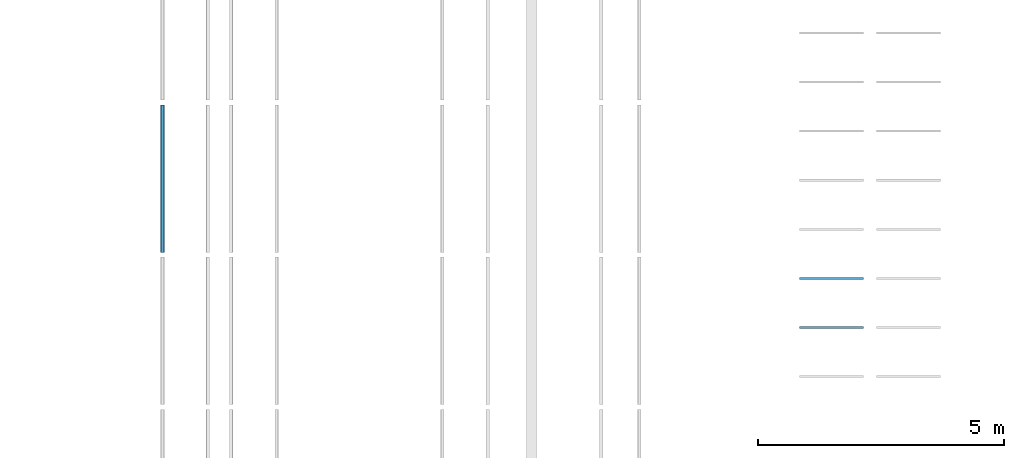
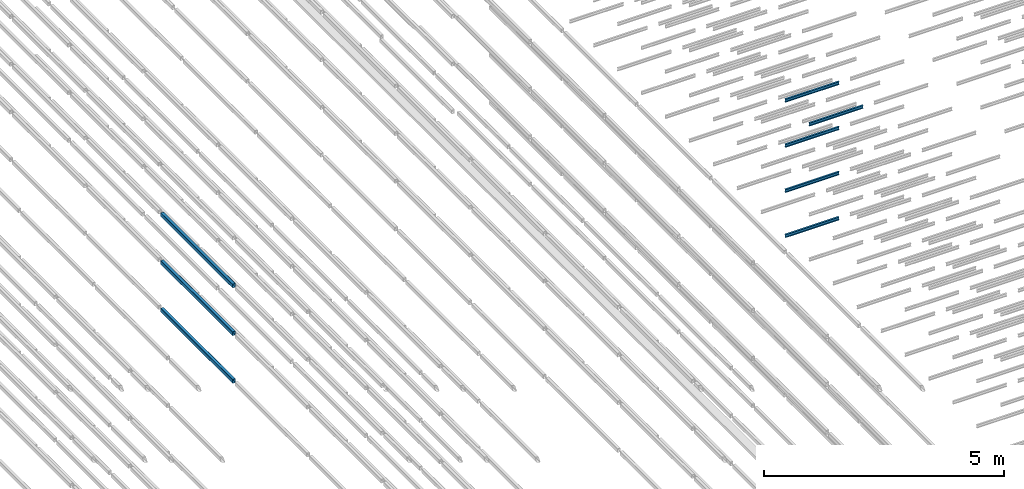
# One storey, part 83 of 290: 8 beams.
"""IFC2X3 building model written with IfcOpenShell, lengths in metres."""

from ifc_helpers import new_model, entity, si_unit, converted_unit, derived_unit, direction, frame, frame_2d, origin, place, context, subcontext, project, spatial, polyline, circle_curve, parameter, trimmed, segment, composite_curve, outline, extrude, material, type_object, element, save


model = new_model("IFC2X3")

# Units and contexts
model_context = context("Model", 3, precision=1e-05, world=origin(), true_north=direction((6.12303176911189e-17, 1.0)))
body_context = subcontext(model_context, "Body", "Model", "MODEL_VIEW")
ifc_project = project(units=[si_unit("LENGTHUNIT", "METRE"), si_unit("AREAUNIT", "SQUARE_METRE"), si_unit("VOLUMEUNIT", "CUBIC_METRE"), converted_unit("PLANEANGLEUNIT", "DEGREE", entity("IfcRatioMeasure", 0.0174532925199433), si_unit("PLANEANGLEUNIT", "RADIAN"), dimensions=[0, 0, 0, 0, 0, 0, 0]), si_unit("MASSUNIT", "GRAM", prefix="KILO"), derived_unit("MASSDENSITYUNIT", [(si_unit("MASSUNIT", "GRAM", prefix="KILO"), 1), (si_unit("LENGTHUNIT", "METRE"), -3)]), derived_unit("MOMENTOFINERTIAUNIT", [(si_unit("LENGTHUNIT", "METRE"), 4)]), si_unit("TIMEUNIT", "SECOND"), si_unit("FREQUENCYUNIT", "HERTZ"), si_unit("THERMODYNAMICTEMPERATUREUNIT", "DEGREE_CELSIUS"), derived_unit("THERMALTRANSMITTANCEUNIT", [(si_unit("MASSUNIT", "GRAM", prefix="KILO"), 1), (si_unit("THERMODYNAMICTEMPERATUREUNIT", "KELVIN"), -1), (si_unit("TIMEUNIT", "SECOND"), -3)]), derived_unit("VOLUMETRICFLOWRATEUNIT", [(si_unit("LENGTHUNIT", "METRE"), 3), (si_unit("TIMEUNIT", "SECOND"), -1)]), si_unit("ELECTRICCURRENTUNIT", "AMPERE"), si_unit("ELECTRICVOLTAGEUNIT", "VOLT"), si_unit("POWERUNIT", "WATT"), si_unit("FORCEUNIT", "NEWTON", prefix="KILO"), si_unit("ILLUMINANCEUNIT", "LUX"), si_unit("LUMINOUSFLUXUNIT", "LUMEN"), si_unit("LUMINOUSINTENSITYUNIT", "CANDELA"), derived_unit("USERDEFINED", [(si_unit("MASSUNIT", "GRAM", prefix="KILO"), -1), (si_unit("LENGTHUNIT", "METRE"), -2), (si_unit("TIMEUNIT", "SECOND"), 3), (si_unit("LUMINOUSFLUXUNIT", "LUMEN"), 1)]), derived_unit("LINEARVELOCITYUNIT", [(si_unit("LENGTHUNIT", "METRE"), 1), (si_unit("TIMEUNIT", "SECOND"), -1)]), si_unit("PRESSUREUNIT", "PASCAL"), derived_unit("USERDEFINED", [(si_unit("LENGTHUNIT", "METRE"), -2), (si_unit("MASSUNIT", "GRAM", prefix="KILO"), 1), (si_unit("TIMEUNIT", "SECOND"), -2)]), derived_unit("LINEARFORCEUNIT", [(si_unit("MASSUNIT", "GRAM", prefix="KILO"), 1), (si_unit("LENGTHUNIT", "METRE"), 1), (si_unit("TIMEUNIT", "SECOND"), -2), (si_unit("LENGTHUNIT", "METRE"), -1)]), derived_unit("PLANARFORCEUNIT", [(si_unit("MASSUNIT", "GRAM", prefix="KILO"), 1), (si_unit("LENGTHUNIT", "METRE"), 1), (si_unit("TIMEUNIT", "SECOND"), -2), (si_unit("LENGTHUNIT", "METRE"), -2)])], contexts=[model_context])

# Site, building, storey
site_placement = place(None, origin())
site = spatial("IfcSite", under=ifc_project, at=site_placement, Name="Default", CompositionType="ELEMENT")
building_placement = place(site_placement, origin())
building = spatial("IfcBuilding", under=site, at=building_placement, CompositionType="ELEMENT")
storey_placement = place(building_placement, frame((0.0, 0.0, 4.0)))
storey = spatial("IfcBuildingStorey", under=building, at=storey_placement, Name="01_OG", CompositionType="ELEMENT", Elevation=4.0)

# Beams
ifc_material_1 = material(Name="Metall - Baustahl S235 blau")
beam_type_1 = type_object("IfcBeamType", Name="RHS Träger (EN 10219-2):RHS 100 x 75 x 5", PredefinedType="NOTDEFINED")
beam_1_placement = place(storey_placement, frame((-185.015111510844, 39.548088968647, -1.2), z_axis=(0.0, 0.0, 1.0), x_axis=(0.0, 1.0, 0.0)))
element("IfcBeam", 1, at=beam_1_placement, inside=storey, type_object=beam_type_1, material=ifc_material_1, Name="RHS Träger (EN 10219-2):RHS 100 x 75 x 5", ObjectType="RHS Träger (EN 10219-2):RHS 100 x 75 x 5", context=body_context, shape_type="SweptSolid", body=[
    extrude(outline(composite_curve([segment(trimmed(circle_curve(frame_2d((-0.0274999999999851, -0.0400000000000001), x_axis=(1.0, 0.0)), 0.01), [parameter(180.0)], [parameter(270.0)], True, "PARAMETER"), True, "CONTINUOUS"), segment(polyline([(-0.0274999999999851, -0.05), (0.0274999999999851, -0.05)]), True, "CONTINUOUS"), segment(trimmed(circle_curve(frame_2d((0.0274999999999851, -0.0400000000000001), x_axis=(1.0, 0.0)), 0.01), [parameter(270.0)], [parameter(5.08888749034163e-14)], True, "PARAMETER"), True, "CONTINUOUS"), segment(polyline([(0.0375000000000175, -0.0400000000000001), (0.0375000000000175, 0.0400000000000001)]), True, "CONTINUOUS"), segment(trimmed(circle_curve(frame_2d((0.0274999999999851, 0.0400000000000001), x_axis=(1.0, 0.0)), 0.01), [parameter(360.0)], [parameter(89.9999999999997)], True, "PARAMETER"), True, "CONTINUOUS"), segment(polyline([(0.0274999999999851, 0.05), (-0.0274999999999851, 0.05)]), True, "CONTINUOUS"), segment(trimmed(circle_curve(frame_2d((-0.0274999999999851, 0.0400000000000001), x_axis=(1.0, 0.0)), 0.01), [parameter(90.0000000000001)], [parameter(180.0)], True, "PARAMETER"), True, "CONTINUOUS"), segment(polyline([(-0.0374999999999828, 0.0400000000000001), (-0.0374999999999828, -0.0400000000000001)]), True, "CONTINUOUS")], self_intersect=False), holes=[composite_curve([segment(polyline([(0.0274999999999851, -0.0450000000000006), (-0.0274999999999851, -0.0450000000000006)]), True, "CONTINUOUS"), segment(trimmed(circle_curve(frame_2d((-0.0274999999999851, -0.0400000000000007), x_axis=(1.0, 0.0)), 0.005), [parameter(180.0)], [parameter(270.0)], True, "PARAMETER"), False, "CONTINUOUS"), segment(polyline([(-0.0325000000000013, -0.0400000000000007), (-0.0325000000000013, 0.039999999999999)]), True, "CONTINUOUS"), segment(trimmed(circle_curve(frame_2d((-0.0274999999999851, 0.039999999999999), x_axis=(1.0, 0.0)), 0.005), [parameter(90.0000000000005)], [parameter(180.0)], True, "PARAMETER"), False, "CONTINUOUS"), segment(polyline([(-0.0274999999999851, 0.044999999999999), (0.0274999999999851, 0.044999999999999)]), True, "CONTINUOUS"), segment(trimmed(circle_curve(frame_2d((0.0274999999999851, 0.039999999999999), x_axis=(1.0, 0.0)), 0.005), [parameter(0.0)], [parameter(90.0000000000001)], True, "PARAMETER"), False, "CONTINUOUS"), segment(polyline([(0.0325000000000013, 0.039999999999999), (0.0325000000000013, -0.0400000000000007)]), True, "CONTINUOUS"), segment(trimmed(circle_curve(frame_2d((0.0274999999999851, -0.0400000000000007), x_axis=(1.0, 0.0)), 0.005), [parameter(270.0)], [parameter(4.07110999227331e-13)], True, "PARAMETER"), False, "CONTINUOUS")], self_intersect=False)]), frame((0.000100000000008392, 0.0375000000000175, -0.0500000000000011), z_axis=(1.0, 0.0, 0.0), x_axis=(0.0, -1.0, 0.0)), (0.0, 0.0, 1.0), 2.99979999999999),
])
beam_2_placement = place(storey_placement, frame((-185.015111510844, 39.548088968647, 0.0150000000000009), z_axis=(0.0, 0.0, 1.0), x_axis=(0.0, 1.0, 0.0)))
element("IfcBeam", 2, at=beam_2_placement, inside=storey, type_object=beam_type_1, material=ifc_material_1, Name="RHS Träger (EN 10219-2):RHS 100 x 75 x 5", ObjectType="RHS Träger (EN 10219-2):RHS 100 x 75 x 5", context=body_context, shape_type="SweptSolid", body=[
    extrude(outline(composite_curve([segment(trimmed(circle_curve(frame_2d((-0.0274999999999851, -0.0400000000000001), x_axis=(1.0, 0.0)), 0.01), [parameter(180.0)], [parameter(270.0)], True, "PARAMETER"), True, "CONTINUOUS"), segment(polyline([(-0.0274999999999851, -0.05), (0.0274999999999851, -0.05)]), True, "CONTINUOUS"), segment(trimmed(circle_curve(frame_2d((0.0274999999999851, -0.0400000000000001), x_axis=(1.0, 0.0)), 0.01), [parameter(270.0)], [parameter(5.08888749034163e-14)], True, "PARAMETER"), True, "CONTINUOUS"), segment(polyline([(0.0375000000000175, -0.0400000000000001), (0.0375000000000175, 0.0400000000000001)]), True, "CONTINUOUS"), segment(trimmed(circle_curve(frame_2d((0.0274999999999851, 0.0400000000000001), x_axis=(1.0, 0.0)), 0.01), [parameter(360.0)], [parameter(89.9999999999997)], True, "PARAMETER"), True, "CONTINUOUS"), segment(polyline([(0.0274999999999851, 0.05), (-0.0274999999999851, 0.05)]), True, "CONTINUOUS"), segment(trimmed(circle_curve(frame_2d((-0.0274999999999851, 0.0400000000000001), x_axis=(1.0, 0.0)), 0.01), [parameter(90.0000000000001)], [parameter(180.0)], True, "PARAMETER"), True, "CONTINUOUS"), segment(polyline([(-0.0374999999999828, 0.0400000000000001), (-0.0374999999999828, -0.0400000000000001)]), True, "CONTINUOUS")], self_intersect=False), holes=[composite_curve([segment(polyline([(0.0274999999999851, -0.0450000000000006), (-0.0274999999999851, -0.0450000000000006)]), True, "CONTINUOUS"), segment(trimmed(circle_curve(frame_2d((-0.0274999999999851, -0.0400000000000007), x_axis=(1.0, 0.0)), 0.005), [parameter(180.0)], [parameter(270.0)], True, "PARAMETER"), False, "CONTINUOUS"), segment(polyline([(-0.0325000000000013, -0.0400000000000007), (-0.0325000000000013, 0.039999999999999)]), True, "CONTINUOUS"), segment(trimmed(circle_curve(frame_2d((-0.0274999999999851, 0.039999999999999), x_axis=(1.0, 0.0)), 0.005), [parameter(90.0000000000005)], [parameter(180.0)], True, "PARAMETER"), False, "CONTINUOUS"), segment(polyline([(-0.0274999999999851, 0.044999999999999), (0.0274999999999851, 0.044999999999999)]), True, "CONTINUOUS"), segment(trimmed(circle_curve(frame_2d((0.0274999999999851, 0.039999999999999), x_axis=(1.0, 0.0)), 0.005), [parameter(0.0)], [parameter(90.0000000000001)], True, "PARAMETER"), False, "CONTINUOUS"), segment(polyline([(0.0325000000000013, 0.039999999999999), (0.0325000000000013, -0.0400000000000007)]), True, "CONTINUOUS"), segment(trimmed(circle_curve(frame_2d((0.0274999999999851, -0.0400000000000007), x_axis=(1.0, 0.0)), 0.005), [parameter(270.0)], [parameter(4.07110999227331e-13)], True, "PARAMETER"), False, "CONTINUOUS")], self_intersect=False)]), frame((0.000100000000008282, 0.0375000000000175, -0.0500000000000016), z_axis=(1.0, 0.0, 0.0), x_axis=(0.0, -1.0, 0.0)), (0.0, 0.0, 1.0), 2.99979999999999),
])
beam_3_placement = place(storey_placement, frame((-185.015111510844, 39.548088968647, 1.23), z_axis=(0.0, 0.0, 1.0), x_axis=(0.0, 1.0, 0.0)))
element("IfcBeam", 3, at=beam_3_placement, inside=storey, type_object=beam_type_1, material=ifc_material_1, Name="RHS Träger (EN 10219-2):RHS 100 x 75 x 5", ObjectType="RHS Träger (EN 10219-2):RHS 100 x 75 x 5", context=body_context, shape_type="SweptSolid", body=[
    extrude(outline(composite_curve([segment(trimmed(circle_curve(frame_2d((-0.0274999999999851, -0.0399999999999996), x_axis=(1.0, 0.0)), 0.01), [parameter(180.0)], [parameter(270.0)], True, "PARAMETER"), True, "CONTINUOUS"), segment(polyline([(-0.0274999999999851, -0.0499999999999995), (0.0274999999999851, -0.0499999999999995)]), True, "CONTINUOUS"), segment(trimmed(circle_curve(frame_2d((0.0274999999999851, -0.0399999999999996), x_axis=(1.0, 0.0)), 0.01), [parameter(270.0)], [parameter(5.08888749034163e-14)], True, "PARAMETER"), True, "CONTINUOUS"), segment(polyline([(0.0375000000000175, -0.0399999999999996), (0.0375000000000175, 0.0399999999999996)]), True, "CONTINUOUS"), segment(trimmed(circle_curve(frame_2d((0.0274999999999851, 0.0399999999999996), x_axis=(1.0, 0.0)), 0.01), [parameter(360.0)], [parameter(89.9999999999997)], True, "PARAMETER"), True, "CONTINUOUS"), segment(polyline([(0.0274999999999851, 0.0500000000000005), (-0.0274999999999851, 0.0500000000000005)]), True, "CONTINUOUS"), segment(trimmed(circle_curve(frame_2d((-0.0274999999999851, 0.0399999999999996), x_axis=(1.0, 0.0)), 0.01), [parameter(90.0000000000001)], [parameter(180.0)], True, "PARAMETER"), True, "CONTINUOUS"), segment(polyline([(-0.0374999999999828, 0.0399999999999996), (-0.0374999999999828, -0.0399999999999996)]), True, "CONTINUOUS")], self_intersect=False), holes=[composite_curve([segment(polyline([(0.0274999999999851, -0.0450000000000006), (-0.0274999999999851, -0.0450000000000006)]), True, "CONTINUOUS"), segment(trimmed(circle_curve(frame_2d((-0.0274999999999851, -0.0400000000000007), x_axis=(1.0, 0.0)), 0.005), [parameter(180.0)], [parameter(270.0)], True, "PARAMETER"), False, "CONTINUOUS"), segment(polyline([(-0.0325000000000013, -0.0400000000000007), (-0.0325000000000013, 0.0399999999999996)]), True, "CONTINUOUS"), segment(trimmed(circle_curve(frame_2d((-0.0274999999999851, 0.0399999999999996), x_axis=(1.0, 0.0)), 0.005), [parameter(90.0000000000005)], [parameter(180.0)], True, "PARAMETER"), False, "CONTINUOUS"), segment(polyline([(-0.0274999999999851, 0.0449999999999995), (0.0274999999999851, 0.0449999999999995)]), True, "CONTINUOUS"), segment(trimmed(circle_curve(frame_2d((0.0274999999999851, 0.0399999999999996), x_axis=(1.0, 0.0)), 0.005), [parameter(0.0)], [parameter(90.0000000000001)], True, "PARAMETER"), False, "CONTINUOUS"), segment(polyline([(0.0325000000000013, 0.0399999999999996), (0.0325000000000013, -0.0400000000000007)]), True, "CONTINUOUS"), segment(trimmed(circle_curve(frame_2d((0.0274999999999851, -0.0400000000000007), x_axis=(1.0, 0.0)), 0.005), [parameter(270.0)], [parameter(4.07110999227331e-13)], True, "PARAMETER"), False, "CONTINUOUS")], self_intersect=False)]), frame((0.000100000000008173, 0.0375000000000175, -0.0500000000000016), z_axis=(1.0, 0.0, 0.0), x_axis=(0.0, -1.0, 0.0)), (0.0, 0.0, 1.0), 2.99979999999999),
])
ifc_material_2 = material(Name="Metall - Baustahl S235")
beam_type_2 = type_object("IfcBeamType", Name="IPN Träger:IPN 80", PredefinedType="NOTDEFINED")
beam_4_placement = place(storey_placement, frame((-170.780111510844, 39.036588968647, -1.73), z_axis=(0.0, 0.0, 1.0), x_axis=(-1.0, 0.0, 0.0)))
element("IfcBeam", 4, at=beam_4_placement, inside=storey, type_object=beam_type_2, material=ifc_material_2, Name="IPN Träger:IPN 80", ObjectType="IPN Träger:IPN 80", context=body_context, shape_type="SweptSolid", body=[
    extrude(outline(composite_curve([segment(polyline([(0.0375704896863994, -0.0210000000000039), (0.0399999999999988, -0.0210000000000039)]), True, "CONTINUOUS"), segment(polyline([(0.0399999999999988, -0.0210000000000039), (0.0399999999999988, 0.0209999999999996)]), True, "CONTINUOUS"), segment(polyline([(0.0399999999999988, 0.0209999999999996), (0.0375704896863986, 0.0209999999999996)]), True, "CONTINUOUS"), segment(trimmed(circle_curve(frame_2d((0.0375704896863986, 0.0187000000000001), x_axis=(0.0, 1.0)), 0.00230000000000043), [parameter(0.0)], [parameter(82.0299999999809)], True, "PARAMETER"), True, "CONTINUOUS"), segment(polyline([(0.0352927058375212, 0.0190189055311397), (0.0333732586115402, 0.0053092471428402)]), True, "CONTINUOUS"), segment(trimmed(circle_curve(frame_2d((0.0295109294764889, 0.00584999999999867), x_axis=(0.990340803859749, -0.138654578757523)), 0.00389999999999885), [parameter(277.969999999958)], [parameter(0.0)], True, "PARAMETER"), False, "CONTINUOUS"), segment(polyline([(0.0295109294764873, 0.00194999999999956), (-0.0295109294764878, 0.00194999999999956)]), True, "CONTINUOUS"), segment(trimmed(circle_curve(frame_2d((-0.0295109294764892, 0.00584999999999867), x_axis=(0.0, -1.0)), 0.00389999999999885), [parameter(277.969999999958)], [parameter(0.0)], True, "PARAMETER"), False, "CONTINUOUS"), segment(polyline([(-0.033373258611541, 0.00530924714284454), (-0.0352927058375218, 0.019018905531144)]), True, "CONTINUOUS"), segment(trimmed(circle_curve(frame_2d((-0.0375704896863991, 0.0187000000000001), x_axis=(0.990340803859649, 0.138654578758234)), 0.00230000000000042), [parameter(0.0)], [parameter(82.0299999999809)], True, "PARAMETER"), True, "CONTINUOUS"), segment(polyline([(-0.0375704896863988, 0.0209999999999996), (-0.0400000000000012, 0.0209999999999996)]), True, "CONTINUOUS"), segment(polyline([(-0.0400000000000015, 0.0209999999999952), (-0.0400000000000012, -0.0210000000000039)]), True, "CONTINUOUS"), segment(polyline([(-0.0400000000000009, -0.0210000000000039), (-0.0375704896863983, -0.0210000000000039)]), True, "CONTINUOUS"), segment(trimmed(circle_curve(frame_2d((-0.0375704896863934, -0.0187000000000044), x_axis=(0.0, -1.0)), 0.0022999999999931), [parameter(0.0)], [parameter(82.030000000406)], True, "PARAMETER"), True, "CONTINUOUS"), segment(polyline([(-0.0352927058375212, -0.019018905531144), (-0.0333732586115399, -0.00530924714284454)]), True, "CONTINUOUS"), segment(trimmed(circle_curve(frame_2d((-0.0295109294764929, -0.00584999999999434), x_axis=(-0.99034080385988, 0.138654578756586)), 0.0038999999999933), [parameter(277.96999999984)], [parameter(0.0)], True, "PARAMETER"), False, "CONTINUOUS"), segment(polyline([(-0.0295109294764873, -0.00195000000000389), (0.0295109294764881, -0.00195000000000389)]), True, "CONTINUOUS"), segment(trimmed(circle_curve(frame_2d((0.029510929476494, -0.00584999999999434), x_axis=(0.0, 1.0)), 0.00389999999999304), [parameter(277.969999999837)], [parameter(0.0)], True, "PARAMETER"), False, "CONTINUOUS"), segment(polyline([(0.033373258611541, -0.00530924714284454), (0.0352927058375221, -0.019018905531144)]), True, "CONTINUOUS"), segment(trimmed(circle_curve(frame_2d((0.0375704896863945, -0.0187000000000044), x_axis=(-0.990340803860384, -0.138654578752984)), 0.0022999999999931), [parameter(0.0)], [parameter(82.030000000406)], True, "PARAMETER"), True, "CONTINUOUS")], self_intersect=False)), frame((0.00010000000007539, 0.0209999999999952, -0.0400000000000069), z_axis=(1.0, 0.0, 0.0), x_axis=(0.0, 0.0, -1.0)), (0.0, 0.0, 1.0), 1.29990000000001),
])
beam_5_placement = place(storey_placement, frame((-170.780111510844, 39.036588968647, -0.579999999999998), z_axis=(0.0, 0.0, 1.0), x_axis=(-1.0, 0.0, 0.0)))
element("IfcBeam", 5, at=beam_5_placement, inside=storey, type_object=beam_type_2, material=ifc_material_2, Name="IPN Träger:IPN 80", ObjectType="IPN Träger:IPN 80", context=body_context, shape_type="SweptSolid", body=[
    extrude(outline(composite_curve([segment(polyline([(0.0375704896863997, -0.0210000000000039), (0.039999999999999, -0.0210000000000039)]), True, "CONTINUOUS"), segment(polyline([(0.039999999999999, -0.0210000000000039), (0.039999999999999, 0.0209999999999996)]), True, "CONTINUOUS"), segment(polyline([(0.039999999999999, 0.0209999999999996), (0.0375704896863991, 0.0209999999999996)]), True, "CONTINUOUS"), segment(trimmed(circle_curve(frame_2d((0.0375704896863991, 0.0187000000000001), x_axis=(0.0, 1.0)), 0.00230000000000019), [parameter(0.0)], [parameter(82.02999999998)], True, "PARAMETER"), True, "CONTINUOUS"), segment(polyline([(0.0352927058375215, 0.0190189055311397), (0.0333732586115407, 0.0053092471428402)]), True, "CONTINUOUS"), segment(trimmed(circle_curve(frame_2d((0.0295109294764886, 0.00584999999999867), x_axis=(0.990340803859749, -0.138654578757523)), 0.00389999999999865), [parameter(277.969999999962)], [parameter(0.0)], True, "PARAMETER"), False, "CONTINUOUS"), segment(polyline([(0.0295109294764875, 0.00194999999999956), (-0.0295109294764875, 0.00194999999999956)]), True, "CONTINUOUS"), segment(trimmed(circle_curve(frame_2d((-0.0295109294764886, 0.00584999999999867), x_axis=(0.0, -1.0)), 0.00389999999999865), [parameter(277.969999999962)], [parameter(0.0)], True, "PARAMETER"), False, "CONTINUOUS"), segment(polyline([(-0.0333732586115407, 0.00530924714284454), (-0.0352927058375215, 0.019018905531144)]), True, "CONTINUOUS"), segment(trimmed(circle_curve(frame_2d((-0.0375704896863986, 0.0187000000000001), x_axis=(0.990340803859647, 0.138654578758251)), 0.00230000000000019), [parameter(0.0)], [parameter(82.02999999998)], True, "PARAMETER"), True, "CONTINUOUS"), segment(polyline([(-0.0375704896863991, 0.0209999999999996), (-0.0400000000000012, 0.0209999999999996)]), True, "CONTINUOUS"), segment(polyline([(-0.0400000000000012, 0.0209999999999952), (-0.0400000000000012, -0.0210000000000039)]), True, "CONTINUOUS"), segment(polyline([(-0.0400000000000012, -0.0210000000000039), (-0.037570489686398, -0.0210000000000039)]), True, "CONTINUOUS"), segment(trimmed(circle_curve(frame_2d((-0.0375704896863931, -0.0187000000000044), x_axis=(0.0, -1.0)), 0.00229999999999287), [parameter(0.0)], [parameter(82.0300000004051)], True, "PARAMETER"), True, "CONTINUOUS"), segment(polyline([(-0.035292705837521, -0.019018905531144), (-0.0333732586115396, -0.00530924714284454)]), True, "CONTINUOUS"), segment(trimmed(circle_curve(frame_2d((-0.0295109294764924, -0.00584999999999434), x_axis=(-0.99034080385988, 0.138654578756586)), 0.00389999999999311), [parameter(277.969999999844)], [parameter(0.0)], True, "PARAMETER"), False, "CONTINUOUS"), segment(polyline([(-0.029510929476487, -0.00195000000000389), (0.0295109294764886, -0.00195000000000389)]), True, "CONTINUOUS"), segment(trimmed(circle_curve(frame_2d((0.029510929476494, -0.00584999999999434), x_axis=(0.0, 1.0)), 0.00389999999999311), [parameter(277.969999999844)], [parameter(0.0)], True, "PARAMETER"), False, "CONTINUOUS"), segment(polyline([(0.0333732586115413, -0.00530924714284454), (0.0352927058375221, -0.019018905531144)]), True, "CONTINUOUS"), segment(trimmed(circle_curve(frame_2d((0.0375704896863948, -0.0187000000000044), x_axis=(-0.990340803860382, -0.138654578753)), 0.00229999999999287), [parameter(0.0)], [parameter(82.0300000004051)], True, "PARAMETER"), True, "CONTINUOUS")], self_intersect=False)), frame((0.000100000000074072, 0.0209999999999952, -0.0400000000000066), z_axis=(1.0, 0.0, 0.0), x_axis=(0.0, 0.0, -1.0)), (0.0, 0.0, 1.0), 1.29990000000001),
])
beam_6_placement = place(storey_placement, frame((-170.780111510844, 39.036588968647, 0.570000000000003), z_axis=(0.0, 0.0, 1.0), x_axis=(-1.0, 0.0, 0.0)))
element("IfcBeam", 6, at=beam_6_placement, inside=storey, type_object=beam_type_2, material=ifc_material_2, Name="IPN Träger:IPN 80", ObjectType="IPN Träger:IPN 80", context=body_context, shape_type="SweptSolid", body=[
    extrude(outline(composite_curve([segment(polyline([(0.0375704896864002, -0.0210000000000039), (0.0399999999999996, -0.0210000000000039)]), True, "CONTINUOUS"), segment(polyline([(0.0399999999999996, -0.0210000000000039), (0.0399999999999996, 0.0209999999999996)]), True, "CONTINUOUS"), segment(polyline([(0.0399999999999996, 0.0209999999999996), (0.0375704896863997, 0.0209999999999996)]), True, "CONTINUOUS"), segment(trimmed(circle_curve(frame_2d((0.0375704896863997, 0.0187000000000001), x_axis=(0.0, 1.0)), 0.00230000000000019), [parameter(0.0)], [parameter(82.02999999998)], True, "PARAMETER"), True, "CONTINUOUS"), segment(polyline([(0.0352927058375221, 0.0190189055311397), (0.0333732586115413, 0.0053092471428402)]), True, "CONTINUOUS"), segment(trimmed(circle_curve(frame_2d((0.0295109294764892, 0.00584999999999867), x_axis=(0.990340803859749, -0.138654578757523)), 0.00389999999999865), [parameter(277.969999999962)], [parameter(0.0)], True, "PARAMETER"), False, "CONTINUOUS"), segment(polyline([(0.0295109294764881, 0.00194999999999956), (-0.029510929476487, 0.00194999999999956)]), True, "CONTINUOUS"), segment(trimmed(circle_curve(frame_2d((-0.0295109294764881, 0.00584999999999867), x_axis=(0.0, -1.0)), 0.00389999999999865), [parameter(277.969999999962)], [parameter(0.0)], True, "PARAMETER"), False, "CONTINUOUS"), segment(polyline([(-0.0333732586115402, 0.00530924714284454), (-0.035292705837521, 0.019018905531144)]), True, "CONTINUOUS"), segment(trimmed(circle_curve(frame_2d((-0.037570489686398, 0.0187000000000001), x_axis=(0.990340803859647, 0.138654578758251)), 0.00230000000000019), [parameter(0.0)], [parameter(82.02999999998)], True, "PARAMETER"), True, "CONTINUOUS"), segment(polyline([(-0.0375704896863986, 0.0209999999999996), (-0.0400000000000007, 0.0209999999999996)]), True, "CONTINUOUS"), segment(polyline([(-0.0400000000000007, 0.0209999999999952), (-0.0400000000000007, -0.0210000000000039)]), True, "CONTINUOUS"), segment(polyline([(-0.0400000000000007, -0.0210000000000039), (-0.0375704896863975, -0.0210000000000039)]), True, "CONTINUOUS"), segment(trimmed(circle_curve(frame_2d((-0.0375704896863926, -0.0187000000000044), x_axis=(0.0, -1.0)), 0.00229999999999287), [parameter(0.0)], [parameter(82.0300000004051)], True, "PARAMETER"), True, "CONTINUOUS"), segment(polyline([(-0.0352927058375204, -0.019018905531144), (-0.0333732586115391, -0.00530924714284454)]), True, "CONTINUOUS"), segment(trimmed(circle_curve(frame_2d((-0.0295109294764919, -0.00584999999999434), x_axis=(-0.99034080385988, 0.138654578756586)), 0.00389999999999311), [parameter(277.969999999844)], [parameter(0.0)], True, "PARAMETER"), False, "CONTINUOUS"), segment(polyline([(-0.0295109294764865, -0.00195000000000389), (0.0295109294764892, -0.00195000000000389)]), True, "CONTINUOUS"), segment(trimmed(circle_curve(frame_2d((0.0295109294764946, -0.00584999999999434), x_axis=(0.0, 1.0)), 0.00389999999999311), [parameter(277.969999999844)], [parameter(0.0)], True, "PARAMETER"), False, "CONTINUOUS"), segment(polyline([(0.0333732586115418, -0.00530924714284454), (0.0352927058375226, -0.019018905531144)]), True, "CONTINUOUS"), segment(trimmed(circle_curve(frame_2d((0.0375704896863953, -0.0187000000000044), x_axis=(-0.990340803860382, -0.138654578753)), 0.00229999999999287), [parameter(0.0)], [parameter(82.0300000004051)], True, "PARAMETER"), True, "CONTINUOUS")], self_intersect=False)), frame((0.000100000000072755, 0.0209999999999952, -0.0400000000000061), z_axis=(1.0, 0.0, 0.0), x_axis=(0.0, 0.0, -1.0)), (0.0, 0.0, 1.0), 1.29990000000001),
])
beam_7_placement = place(storey_placement, frame((-170.780111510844, 39.036588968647, 1.72), z_axis=(0.0, 0.0, 1.0), x_axis=(-1.0, 0.0, 0.0)))
element("IfcBeam", 7, at=beam_7_placement, inside=storey, type_object=beam_type_2, material=ifc_material_2, Name="IPN Träger:IPN 80", ObjectType="IPN Träger:IPN 80", context=body_context, shape_type="SweptSolid", body=[
    extrude(outline(composite_curve([segment(polyline([(0.0375704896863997, -0.0210000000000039), (0.0399999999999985, -0.0210000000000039)]), True, "CONTINUOUS"), segment(polyline([(0.0399999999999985, -0.0210000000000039), (0.0399999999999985, 0.0209999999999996)]), True, "CONTINUOUS"), segment(polyline([(0.0399999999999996, 0.0209999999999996), (0.0375704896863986, 0.0209999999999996)]), True, "CONTINUOUS"), segment(trimmed(circle_curve(frame_2d((0.0375704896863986, 0.0187000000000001), x_axis=(0.0, 1.0)), 0.00230000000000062), [parameter(0.0)], [parameter(82.0299999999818)], True, "PARAMETER"), True, "CONTINUOUS"), segment(polyline([(0.0352927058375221, 0.0190189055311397), (0.0333732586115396, 0.0053092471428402)]), True, "CONTINUOUS"), segment(trimmed(circle_curve(frame_2d((0.0295109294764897, 0.00584999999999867), x_axis=(0.990340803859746, -0.138654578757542)), 0.00389999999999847), [parameter(277.969999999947)], [parameter(0.0)], True, "PARAMETER"), False, "CONTINUOUS"), segment(polyline([(0.0295109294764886, 0.00194999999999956), (-0.0295109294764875, 0.00194999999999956)]), True, "CONTINUOUS"), segment(trimmed(circle_curve(frame_2d((-0.0295109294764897, 0.00584999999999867), x_axis=(0.0, -1.0)), 0.00389999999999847), [parameter(277.969999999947)], [parameter(0.0)], True, "PARAMETER"), False, "CONTINUOUS"), segment(polyline([(-0.0333732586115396, 0.00530924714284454), (-0.0352927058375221, 0.019018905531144)]), True, "CONTINUOUS"), segment(trimmed(circle_curve(frame_2d((-0.0375704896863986, 0.0187000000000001), x_axis=(0.990340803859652, 0.138654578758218)), 0.00230000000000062), [parameter(0.0)], [parameter(82.0299999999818)], True, "PARAMETER"), True, "CONTINUOUS"), segment(polyline([(-0.0375704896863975, 0.0209999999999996), (-0.0400000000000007, 0.0209999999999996)]), True, "CONTINUOUS"), segment(polyline([(-0.0400000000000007, 0.0209999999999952), (-0.0400000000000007, -0.0210000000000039)]), True, "CONTINUOUS"), segment(polyline([(-0.0400000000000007, -0.0210000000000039), (-0.0375704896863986, -0.0210000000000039)]), True, "CONTINUOUS"), segment(trimmed(circle_curve(frame_2d((-0.0375704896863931, -0.0187000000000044), x_axis=(0.0, -1.0)), 0.0022999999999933), [parameter(0.0)], [parameter(82.0300000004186)], True, "PARAMETER"), True, "CONTINUOUS"), segment(polyline([(-0.035292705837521, -0.019018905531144), (-0.0333732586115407, -0.00530924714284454)]), True, "CONTINUOUS"), segment(trimmed(circle_curve(frame_2d((-0.029510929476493, -0.00584999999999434), x_axis=(-0.990340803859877, 0.138654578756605)), 0.00389999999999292), [parameter(277.969999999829)], [parameter(0.0)], True, "PARAMETER"), False, "CONTINUOUS"), segment(polyline([(-0.0295109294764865, -0.00195000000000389), (0.0295109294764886, -0.00195000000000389)]), True, "CONTINUOUS"), segment(trimmed(circle_curve(frame_2d((0.0295109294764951, -0.00584999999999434), x_axis=(0.0, 1.0)), 0.00389999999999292), [parameter(277.969999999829)], [parameter(0.0)], True, "PARAMETER"), False, "CONTINUOUS"), segment(polyline([(0.0333732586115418, -0.00530924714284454), (0.0352927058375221, -0.019018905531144)]), True, "CONTINUOUS"), segment(trimmed(circle_curve(frame_2d((0.0375704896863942, -0.0187000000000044), x_axis=(-0.990340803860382, -0.138654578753)), 0.0022999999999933), [parameter(0.0)], [parameter(82.0300000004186)], True, "PARAMETER"), True, "CONTINUOUS")], self_intersect=False)), frame((0.000100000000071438, 0.0209999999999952, -0.040000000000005), z_axis=(1.0, 0.0, 0.0), x_axis=(0.0, 0.0, -1.0)), (0.0, 0.0, 1.0), 1.29990000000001),
])
beam_8_placement = place(storey_placement, frame((-170.780111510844, 38.036588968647, 1.72), z_axis=(0.0, 0.0, 1.0), x_axis=(-1.0, 0.0, 0.0)))
element("IfcBeam", 8, at=beam_8_placement, inside=storey, type_object=beam_type_2, material=ifc_material_2, Name="IPN Träger:IPN 80", ObjectType="IPN Träger:IPN 80", context=body_context, shape_type="SweptSolid", body=[
    extrude(outline(composite_curve([segment(polyline([(0.0375704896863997, -0.0210000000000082), (0.0399999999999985, -0.0210000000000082)]), True, "CONTINUOUS"), segment(polyline([(0.0399999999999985, -0.0210000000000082), (0.0399999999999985, 0.0209999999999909)]), True, "CONTINUOUS"), segment(polyline([(0.0399999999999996, 0.0209999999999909), (0.0375704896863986, 0.0209999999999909)]), True, "CONTINUOUS"), segment(trimmed(circle_curve(frame_2d((0.0375704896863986, 0.0186999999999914), x_axis=(0.0, 1.0)), 0.00230000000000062), [parameter(0.0)], [parameter(82.0299999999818)], True, "PARAMETER"), True, "CONTINUOUS"), segment(polyline([(0.0352927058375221, 0.019018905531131), (0.0333732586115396, 0.00530924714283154)]), True, "CONTINUOUS"), segment(trimmed(circle_curve(frame_2d((0.0295109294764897, 0.00584999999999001), x_axis=(0.990340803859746, -0.138654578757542)), 0.00389999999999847), [parameter(277.969999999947)], [parameter(0.0)], True, "PARAMETER"), False, "CONTINUOUS"), segment(polyline([(0.0295109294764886, 0.00194999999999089), (-0.0295109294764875, 0.00194999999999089)]), True, "CONTINUOUS"), segment(trimmed(circle_curve(frame_2d((-0.0295109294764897, 0.00584999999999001), x_axis=(0.0, -1.0)), 0.00389999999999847), [parameter(277.969999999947)], [parameter(0.0)], True, "PARAMETER"), False, "CONTINUOUS"), segment(polyline([(-0.0333732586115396, 0.00530924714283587), (-0.0352927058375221, 0.0190189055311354)]), True, "CONTINUOUS"), segment(trimmed(circle_curve(frame_2d((-0.0375704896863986, 0.0186999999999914), x_axis=(0.990340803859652, 0.138654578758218)), 0.00230000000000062), [parameter(0.0)], [parameter(82.0299999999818)], True, "PARAMETER"), True, "CONTINUOUS"), segment(polyline([(-0.0375704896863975, 0.0209999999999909), (-0.0400000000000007, 0.0209999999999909)]), True, "CONTINUOUS"), segment(polyline([(-0.0400000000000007, 0.0209999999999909), (-0.0400000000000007, -0.0210000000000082)]), True, "CONTINUOUS"), segment(polyline([(-0.0400000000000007, -0.0210000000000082), (-0.0375704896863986, -0.0210000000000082)]), True, "CONTINUOUS"), segment(trimmed(circle_curve(frame_2d((-0.0375704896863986, -0.0187000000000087), x_axis=(0.0, -1.0)), 0.00230000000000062), [parameter(0.0)], [parameter(82.0299999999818)], True, "PARAMETER"), True, "CONTINUOUS"), segment(polyline([(-0.035292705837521, -0.0190189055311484), (-0.0333732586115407, -0.0053092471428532)]), True, "CONTINUOUS"), segment(trimmed(circle_curve(frame_2d((-0.0295109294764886, -0.00585000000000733), x_axis=(-0.990340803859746, 0.138654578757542)), 0.00389999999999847), [parameter(277.969999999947)], [parameter(0.0)], True, "PARAMETER"), False, "CONTINUOUS"), segment(polyline([(-0.0295109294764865, -0.00195000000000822), (0.0295109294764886, -0.00195000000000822)]), True, "CONTINUOUS"), segment(trimmed(circle_curve(frame_2d((0.0295109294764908, -0.00585000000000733), x_axis=(0.0, 1.0)), 0.00389999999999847), [parameter(277.969999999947)], [parameter(0.0)], True, "PARAMETER"), False, "CONTINUOUS"), segment(polyline([(0.0333732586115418, -0.0053092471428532), (0.0352927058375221, -0.0190189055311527)]), True, "CONTINUOUS"), segment(trimmed(circle_curve(frame_2d((0.0375704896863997, -0.0187000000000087), x_axis=(-0.990340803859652, -0.138654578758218)), 0.00230000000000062), [parameter(0.0)], [parameter(82.0299999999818)], True, "PARAMETER"), True, "CONTINUOUS")], self_intersect=False)), frame((0.000100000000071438, 0.0210000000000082, -0.040000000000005), z_axis=(1.0, 0.0, 0.0), x_axis=(0.0, 0.0, -1.0)), (0.0, 0.0, 1.0), 1.29990000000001),
])

save(model, "model.ifc")
